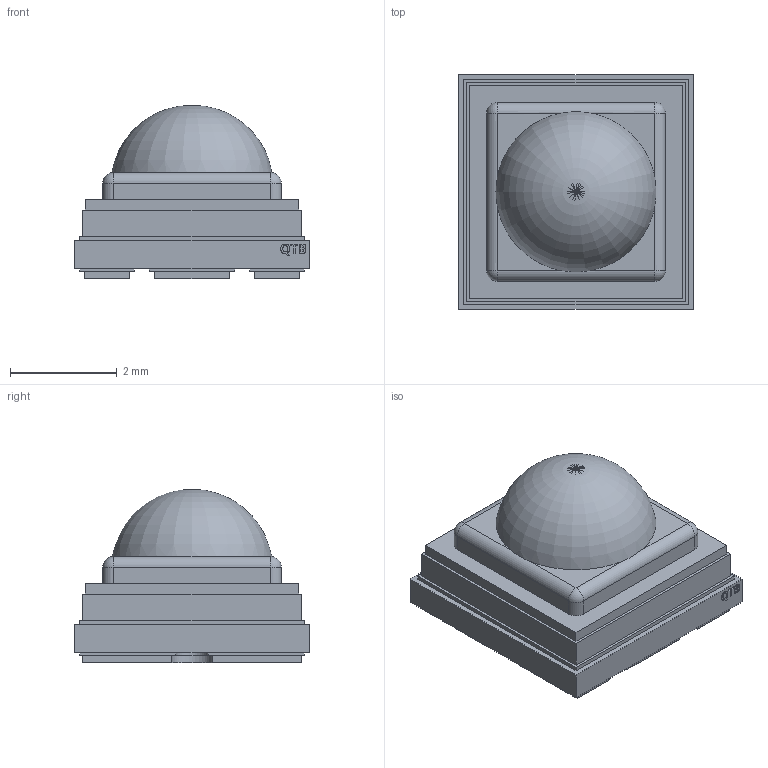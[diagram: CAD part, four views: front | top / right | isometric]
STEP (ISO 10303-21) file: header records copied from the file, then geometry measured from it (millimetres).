
FILE_DESCRIPTION(/* description */ (''),/* implementation_level */ '2;1');
FILE_NAME(/* name */ '5fab0802fb24ef107906061c',/* time_stamp */ '2020-11-10T21:37:07+00:00',/* author */ (''),/* organization */ (''),/* preprocessor_version */ 'ST-DEVELOPER v16.7',/* originating_system */ $,/* authorisation */ $);
FILE_SCHEMA (('AUTOMOTIVE_DESIGN {1 0 10303 214 3 1 1}'));
Length unit declared in the file: metre
Products named in the file (11): QBHP4545E-UV265X; Part 10; Part 7; Part 3; Part 6; Part 5; Part 4; Part 1; Part 2; Part 9; Part 8
Assembly tree (10 placements, depth 2):
  QBHP4545E-UV265X
    Part 10
    Part 7
    Part 3
    Part 6
    Part 5
    Part 4
    Part 1
    Part 2
    Part 9
    Part 8
Bounding box: 4.4 x 4.4 x 3.24 mm (x, y, z)
Volume: 19.5 mm3; surface area: 219.5 mm2
Topology: 10 solids, 10 shells, 154 faces, 376 edges, 244 vertices
Faces by surface type: plane 106, bspline 29, cylinder 14, sphere 4, torus 1
Entity records: 4809 total; most frequent: CARTESIAN_POINT 1120, ORIENTED_EDGE 738, DIRECTION 603, EDGE_CURVE 369, LINE 275, VECTOR 275, VERTEX_POINT 243, FACE_BOUND 166
